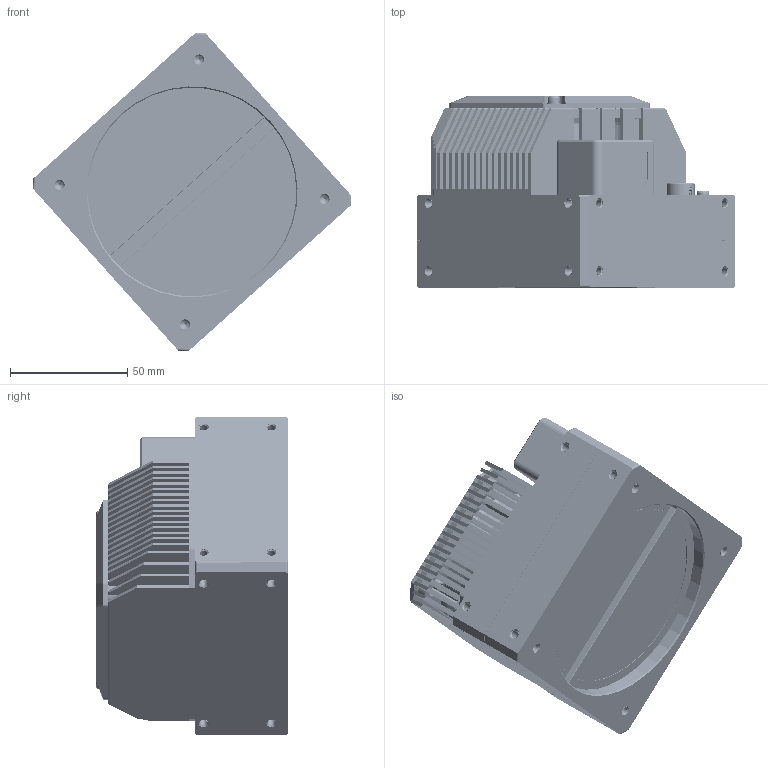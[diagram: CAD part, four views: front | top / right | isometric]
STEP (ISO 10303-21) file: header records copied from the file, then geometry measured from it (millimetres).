
FILE_DESCRIPTION((''),'2;1');
FILE_NAME('0-CL166-B0F2C_ASM','2025-10-11T14:03:49',('zhangqianwen8'),(''),'CREO PARAMETRIC BY PTC INC, 2020044','CREO PARAMETRIC BY PTC INC, 2020044','');
FILE_SCHEMA(('CONFIG_CONTROL_DESIGN'));
Products named in the file (1): 0-CL166-B0F2C_ASM
Bounding box: 135.83 x 81.65 x 135.83 mm (x, y, z)
Volume: 66779.3 mm3; surface area: 236494.9 mm2
Topology: 36 solids, 162 shells, 14817 faces, 41763 edges, 27269 vertices
Faces by surface type: plane 9392, cylinder 3522, cone 964, bspline 660, torus 236, sphere 30, extrusion 13
Entity records: 563021 total; most frequent: CARTESIAN_POINT 183720, ORIENTED_EDGE 81767, DIRECTION 73627, EDGE_CURVE 41578, VECTOR 28023, LINE 28010, VERTEX_POINT 27268, AXIS2_PLACEMENT_3D 22802
